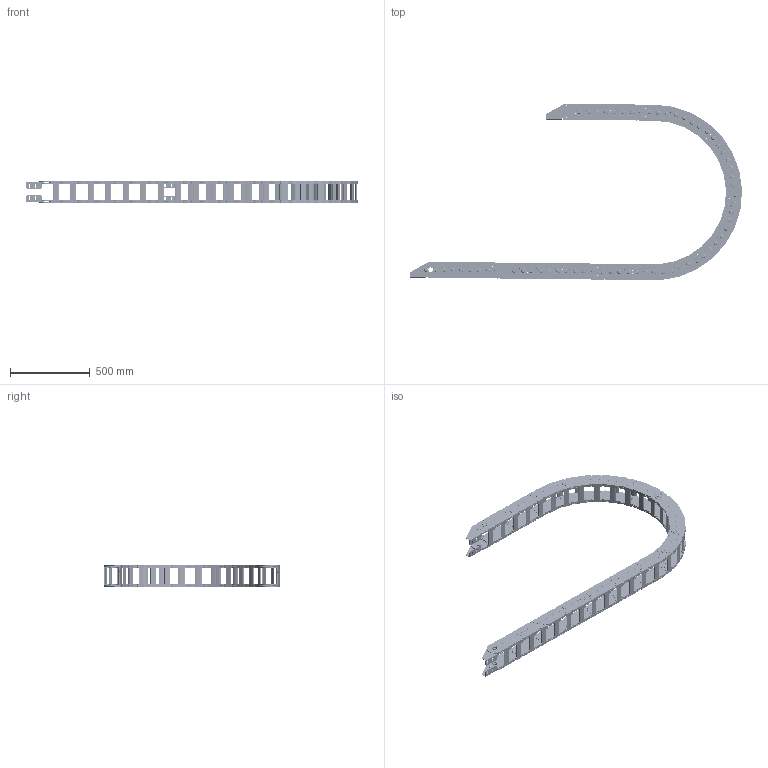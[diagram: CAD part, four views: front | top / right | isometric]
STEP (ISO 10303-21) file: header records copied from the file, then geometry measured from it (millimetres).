
FILE_DESCRIPTION((''),'2;1');
FILE_NAME('80GD-75-R500_ASM','2022-07-31T15:42:04',('admin'),(''),'CREO PARAMETRIC BY PTC INC, 2021164','CREO PARAMETRIC BY PTC INC, 2021164','');
FILE_SCHEMA(('CONFIG_CONTROL_DESIGN','GEOMETRIC_VALIDATION_PROPERTIES_MIM'));
Length unit declared in the file: millimetre
Products named in the file (5): 80-A; 80-B; 80-LTT; 80-LTT-2; 80GD-75-R500_ASM
Assembly tree (34 placements, depth 2):
  80GD-75-R500_ASM
    80-A  x16
    80-B  x16
    80-LTT
    80-LTT-2
Bounding box: 2081.46 x 1105.97 x 140.3 mm (x, y, z)
Volume: 14938845 mm3; surface area: 4665672.7 mm2
Topology: 132 solids, 132 shells, 5600 faces, 15166 edges, 10282 vertices
Faces by surface type: cylinder 2468, plane 2236, torus 640, cone 256
Entity records: 21525 total; most frequent: DIRECTION 3106, CARTESIAN_POINT 2870, ORIENTED_EDGE 2732, EDGE_CURVE 1366, AXIS2_PLACEMENT_3D 1201, PRESENTATION_STYLE_ASSIGNMENT 1114, STYLED_ITEM 1114, VERTEX_POINT 922
